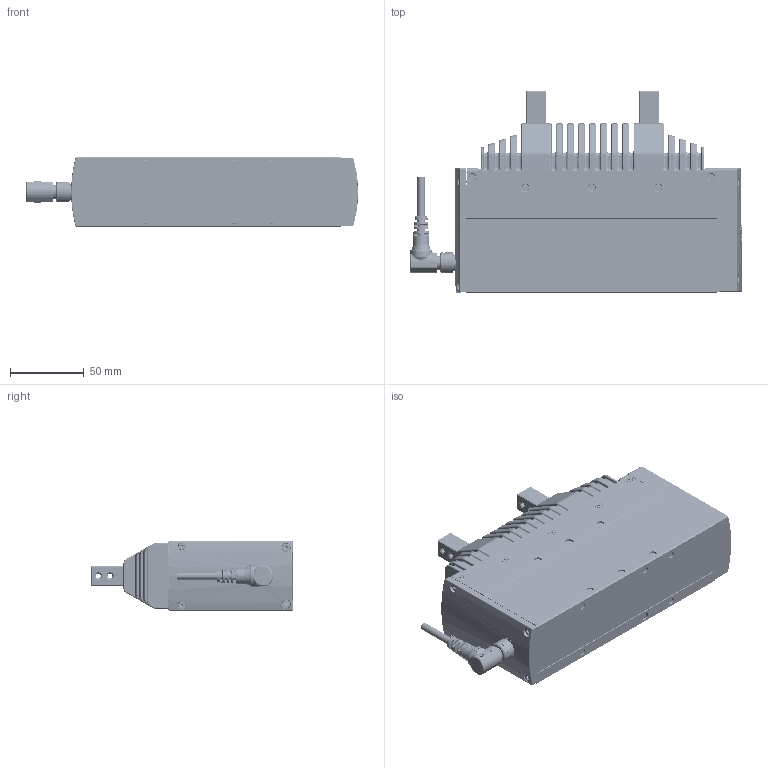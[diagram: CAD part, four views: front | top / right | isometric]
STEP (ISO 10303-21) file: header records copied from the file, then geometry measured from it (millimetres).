
FILE_DESCRIPTION(/* description */ ('STEP AP203'),/* implementation_level */ '2;1');
FILE_NAME(/* name */ 'D:\2025.02.25 帶電匯整給泊舟\3. CHS2系列\4.3D組立\2C-S68\CHS2C-S68-WM.stp',/* time_stamp */ '2025-02-25T18:34:19+08:00',/* author */ ('T10033'),/* organization */ (''),/* preprocessor_version */ 'ST-DEVELOPER v18.1',/* originating_system */ 'Autodesk Inventor 2020',/* authorisation */ '');
FILE_SCHEMA (('CONFIG_CONTROL_DESIGN'));
Products named in the file (7): CHS2C-S68; M12 -14PIN  板端-第一種規格; 2T6354T34W; 12004-0000000_¹w³]_¾÷¾¹¥[
¤u_; ª¿½¦®M-S68-1.0; 63T6ER_Shrinkwrap_1; M12-14PIN 線端90度接頭-05中繼線
Assembly tree (7 placements, depth 3):
  CHS2C-S68
    M12 -14PIN  板端-第一種規格
    2T6354T34W
      12004-0000000_¹w³]_¾÷¾¹¥[
¤u_  x2
      ª¿½¦®M-S68-1.0
    63T6ER_Shrinkwrap_1
    M12-14PIN 線端90度接頭-05中繼線
Bounding box: 224.77 x 137 x 48 mm (x, y, z)
Volume: 747663.9 mm3; surface area: 160148.7 mm2
Topology: 22 solids, 27 shells, 4935 faces, 13057 edges, 8109 vertices
Faces by surface type: plane 1641, cylinder 1419, bspline 831, cone 571, torus 393, sphere 80
Full cylindrical faces by diameter (mm): 0.6 x14, 0.65 x14, 1 x14, 2.5 x146, 3 x10, 3.3 x4, 3.5 x8, 4.5 x6, 4.7 x10, 5 x20, 5.2 x8, 5.5 x2, 8 x1, 8.9 x1, 9.5 x2, 9.6 x1, 10.5 x2, 10.9 x1, 11 x2, 11.2 x1, 11.25 x1, 12 x1, 13 x1, 13.8 x1, 14 x2, 14.4 x1, 17.482 x1
Entity records: 216013 total; most frequent: CARTESIAN_POINT 96245, ORIENTED_EDGE 25076, DIRECTION 24794, EDGE_CURVE 12556, AXIS2_PLACEMENT_3D 9848, VERTEX_POINT 7940, CIRCLE 5393, EDGE_LOOP 5176
